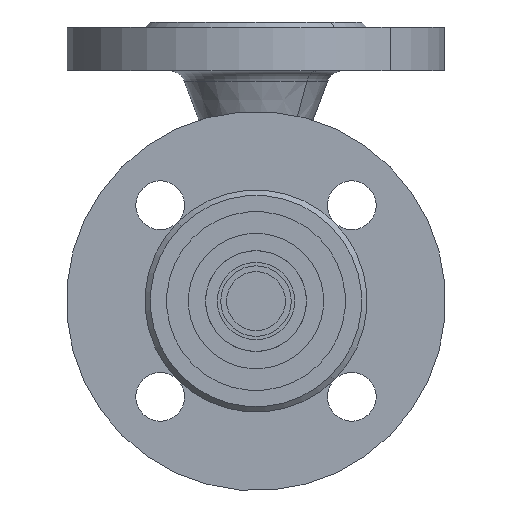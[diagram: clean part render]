
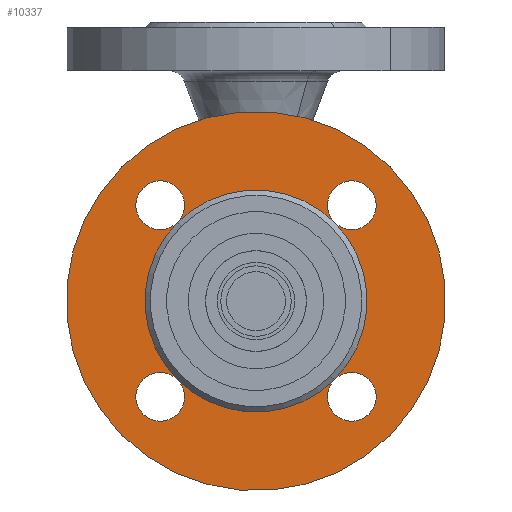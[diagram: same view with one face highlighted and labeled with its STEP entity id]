
A CAD part, front view. The second image highlights one B-rep face of the part: STEP entity #10337.
In plain terms, the highlighted planar face has unit normal (0, -1, 0).
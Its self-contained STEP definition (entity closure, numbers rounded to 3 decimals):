
#16402 = CARTESIAN_POINT ( 'NONE',  ( 70., 2., 0. ) ) ;
#16419 = EDGE_CURVE ( 'NONE', #13878, #747, #6027, .T. ) ;
#213 = VERTEX_POINT ( 'NONE', #7123 ) ;
#16617 = ORIENTED_EDGE ( 'NONE', *, *, #6523, .F. ) ;
#16683 = CARTESIAN_POINT ( 'NONE',  ( -70., 2., 0. ) ) ;
#433 = VERTEX_POINT ( 'NONE', #7382 ) ;
#499 = ORIENTED_EDGE ( 'NONE', *, *, #14106, .T. ) ;
#651 = EDGE_CURVE ( 'NONE', #433, #213, #7811, .T. ) ;
#747 = VERTEX_POINT ( 'NONE', #7903 ) ;
#17150 = EDGE_CURVE ( 'NONE', #9882, #18017, #6584, .T. ) ;
#963 = VERTEX_POINT ( 'NONE', #8064 ) ;
#1188 = EDGE_CURVE ( 'NONE', #963, #747, #8182, .T. ) ;
#17643 = ORIENTED_EDGE ( 'NONE', *, *, #16187, .T. ) ;
#17977 = ORIENTED_EDGE ( 'NONE', *, *, #16419, .T. ) ;
#18017 = VERTEX_POINT ( 'NONE', #13881 ) ;
#18235 = EDGE_CURVE ( 'NONE', #18017, #13878, #14221, .T. ) ;
#18486 = EDGE_CURVE ( 'NONE', #13654, #13878, #14626, .T. ) ;
#18832 = EDGE_CURVE ( 'NONE', #747, #9882, #15114, .T. ) ;
#18851 = ORIENTED_EDGE ( 'NONE', *, *, #18486, .T. ) ;
#2522 = VERTEX_POINT ( 'NONE', #9537 ) ;
#5891 = CIRCLE ( 'NONE', #5892, 70. ) ;
#5892 = AXIS2_PLACEMENT_3D ( 'NONE', #5893, #5894, #5895 ) ;
#5893 = CARTESIAN_POINT ( 'NONE',  ( 0., 2., 0. ) ) ;
#5894 = DIRECTION ( 'NONE',  ( 0., 1., 0. ) ) ;
#5895 = DIRECTION ( 'NONE',  ( -1., 0., 0. ) ) ;
#5915 = CIRCLE ( 'NONE', #5916, 9. ) ;
#5916 = AXIS2_PLACEMENT_3D ( 'NONE', #5917, #5918, #5919 ) ;
#5917 = CARTESIAN_POINT ( 'NONE',  ( 0., 2., 50. ) ) ;
#5918 = DIRECTION ( 'NONE',  ( 0., 1., 0. ) ) ;
#5919 = DIRECTION ( 'NONE',  ( -1., 0., 0. ) ) ;
#6027 = CIRCLE ( 'NONE', #6028, 41. ) ;
#6028 = AXIS2_PLACEMENT_3D ( 'NONE', #6029, #6030, #6031 ) ;
#6029 = CARTESIAN_POINT ( 'NONE',  ( 0., 2., 0. ) ) ;
#6030 = DIRECTION ( 'NONE',  ( 0., 1., 0. ) ) ;
#6031 = DIRECTION ( 'NONE',  ( -1., 0., 0. ) ) ;
#6086 = VERTEX_POINT ( 'NONE', #16402 ) ;
#6305 = VERTEX_POINT ( 'NONE', #16683 ) ;
#6523 = EDGE_CURVE ( 'NONE', #6305, #6086, #5891, .T. ) ;
#6584 = CIRCLE ( 'NONE', #6585, 41. ) ;
#6585 = AXIS2_PLACEMENT_3D ( 'NONE', #6586, #6587, #6588 ) ;
#6586 = CARTESIAN_POINT ( 'NONE',  ( 0., 2., 0. ) ) ;
#6587 = DIRECTION ( 'NONE',  ( 0., 1., 0. ) ) ;
#6588 = DIRECTION ( 'NONE',  ( -1., 0., 0. ) ) ;
#7123 = CARTESIAN_POINT ( 'NONE',  ( -9., 2., -50. ) ) ;
#7206 = CARTESIAN_POINT ( 'NONE',  ( 41., 2., 0. ) ) ;
#7382 = CARTESIAN_POINT ( 'NONE',  ( 9., 2., -50. ) ) ;
#7676 = CARTESIAN_POINT ( 'NONE',  ( 59., 2., 0. ) ) ;
#7811 = CIRCLE ( 'NONE', #7812, 9. ) ;
#7812 = AXIS2_PLACEMENT_3D ( 'NONE', #7813, #7814, #7815 ) ;
#7813 = CARTESIAN_POINT ( 'NONE',  ( 0., 2., -50. ) ) ;
#7814 = DIRECTION ( 'NONE',  ( 0., 1., 0. ) ) ;
#7815 = DIRECTION ( 'NONE',  ( -1., 0., 0. ) ) ;
#7903 = CARTESIAN_POINT ( 'NONE',  ( 0., 2., 41. ) ) ;
#7915 = CIRCLE ( 'NONE', #7916, 9. ) ;
#7916 = AXIS2_PLACEMENT_3D ( 'NONE', #7917, #7918, #7919 ) ;
#7917 = CARTESIAN_POINT ( 'NONE',  ( 50., 2., 0. ) ) ;
#7918 = DIRECTION ( 'NONE',  ( 0., 1., 0. ) ) ;
#7919 = DIRECTION ( 'NONE',  ( -1., 0., 0. ) ) ;
#7930 = FACE_OUTER_BOUND ( 'NONE', #10095, .T. ) ;
#7931 = FACE_BOUND ( 'NONE', #15752, .T. ) ;
#7932 = PLANE ( 'NONE',  #7933 ) ;
#7933 = AXIS2_PLACEMENT_3D ( 'NONE', #7934, #7935, #7936 ) ;
#7934 = CARTESIAN_POINT ( 'NONE',  ( 41., 2., 0. ) ) ;
#7935 = DIRECTION ( 'NONE',  ( 0., 1., 0. ) ) ;
#7936 = DIRECTION ( 'NONE',  ( -1., 0., 0. ) ) ;
#8064 = CARTESIAN_POINT ( 'NONE',  ( 9., 2., 50. ) ) ;
#8182 = CIRCLE ( 'NONE', #8184, 9. ) ;
#8184 = AXIS2_PLACEMENT_3D ( 'NONE', #8185, #8186, #8187 ) ;
#8185 = CARTESIAN_POINT ( 'NONE',  ( 0., 2., 50. ) ) ;
#8186 = DIRECTION ( 'NONE',  ( 0., 1., 0. ) ) ;
#8187 = DIRECTION ( 'NONE',  ( -1., 0., 0. ) ) ;
#8231 = CIRCLE ( 'NONE', #8235, 9. ) ;
#8235 = AXIS2_PLACEMENT_3D ( 'NONE', #8236, #8237, #8238 ) ;
#8236 = CARTESIAN_POINT ( 'NONE',  ( 0., 2., 50. ) ) ;
#8237 = DIRECTION ( 'NONE',  ( 0., 1., 0. ) ) ;
#8238 = DIRECTION ( 'NONE',  ( -1., 0., 0. ) ) ;
#8527 = ORIENTED_EDGE ( 'NONE', *, *, #10317, .T. ) ;
#9018 = EDGE_CURVE ( 'NONE', #9882, #10094, #14305, .T. ) ;
#9197 = CIRCLE ( 'NONE', #9198, 70. ) ;
#9198 = AXIS2_PLACEMENT_3D ( 'NONE', #9199, #9200, #9201 ) ;
#9199 = CARTESIAN_POINT ( 'NONE',  ( 0., 2., 0. ) ) ;
#9200 = DIRECTION ( 'NONE',  ( 0., 1., 0. ) ) ;
#9201 = DIRECTION ( 'NONE',  ( -1., 0., 0. ) ) ;
#9379 = ORIENTED_EDGE ( 'NONE', *, *, #9018, .T. ) ;
#9537 = CARTESIAN_POINT ( 'NONE',  ( -9., 2., 50. ) ) ;
#9882 = VERTEX_POINT ( 'NONE', #7206 ) ;
#9883 = ORIENTED_EDGE ( 'NONE', *, *, #18832, .T. ) ;
#10094 = VERTEX_POINT ( 'NONE', #7676 ) ;
#10095 = EDGE_LOOP ( 'NONE', ( #16617, #15987 ) ) ;
#10317 = EDGE_CURVE ( 'NONE', #10094, #9882, #7915, .T. ) ;
#10337 = ADVANCED_FACE ( 'NONE', ( #7930, #7931 ), #7932, .F. ) ;
#10391 = ORIENTED_EDGE ( 'NONE', *, *, #1188, .T. ) ;
#10895 = EDGE_CURVE ( 'NONE', #2522, #963, #8231, .T. ) ;
#11260 = ORIENTED_EDGE ( 'NONE', *, *, #10895, .T. ) ;
#11696 = EDGE_CURVE ( 'NONE', #6086, #6305, #9197, .T. ) ;
#12469 = ORIENTED_EDGE ( 'NONE', *, *, #18235, .T. ) ;
#12984 = EDGE_CURVE ( 'NONE', #213, #18017, #13443, .T. ) ;
#13342 = ORIENTED_EDGE ( 'NONE', *, *, #12984, .T. ) ;
#13443 = CIRCLE ( 'NONE', #13444, 9. ) ;
#13444 = AXIS2_PLACEMENT_3D ( 'NONE', #13445, #13446, #13447 ) ;
#13445 = CARTESIAN_POINT ( 'NONE',  ( 0., 2., -50. ) ) ;
#13446 = DIRECTION ( 'NONE',  ( 0., 1., 0. ) ) ;
#13447 = DIRECTION ( 'NONE',  ( -1., 0., 0. ) ) ;
#13654 = VERTEX_POINT ( 'NONE', #14294 ) ;
#13857 = ORIENTED_EDGE ( 'NONE', *, *, #651, .T. ) ;
#13878 = VERTEX_POINT ( 'NONE', #14686 ) ;
#13881 = CARTESIAN_POINT ( 'NONE',  ( 0., 2., -41. ) ) ;
#14106 = EDGE_CURVE ( 'NONE', #13878, #13654, #14930, .T. ) ;
#14221 = CIRCLE ( 'NONE', #14222, 41. ) ;
#14222 = AXIS2_PLACEMENT_3D ( 'NONE', #14223, #14224, #14225 ) ;
#14223 = CARTESIAN_POINT ( 'NONE',  ( 0., 2., 0. ) ) ;
#14224 = DIRECTION ( 'NONE',  ( 0., 1., 0. ) ) ;
#14225 = DIRECTION ( 'NONE',  ( -1., 0., 0. ) ) ;
#14294 = CARTESIAN_POINT ( 'NONE',  ( -59., 2., 0. ) ) ;
#14305 = CIRCLE ( 'NONE', #14306, 9. ) ;
#14306 = AXIS2_PLACEMENT_3D ( 'NONE', #14307, #14308, #14309 ) ;
#14307 = CARTESIAN_POINT ( 'NONE',  ( 50., 2., 0. ) ) ;
#14308 = DIRECTION ( 'NONE',  ( 0., 1., 0. ) ) ;
#14309 = DIRECTION ( 'NONE',  ( -1., 0., 0. ) ) ;
#14377 = EDGE_CURVE ( 'NONE', #18017, #433, #15175, .T. ) ;
#14626 = CIRCLE ( 'NONE', #14627, 9. ) ;
#14627 = AXIS2_PLACEMENT_3D ( 'NONE', #14628, #14629, #14630 ) ;
#14628 = CARTESIAN_POINT ( 'NONE',  ( -50., 2., 0. ) ) ;
#14629 = DIRECTION ( 'NONE',  ( 0., 1., 0. ) ) ;
#14630 = DIRECTION ( 'NONE',  ( -1., 0., 0. ) ) ;
#14686 = CARTESIAN_POINT ( 'NONE',  ( -41., 2., 0. ) ) ;
#14744 = ORIENTED_EDGE ( 'NONE', *, *, #14377, .T. ) ;
#14930 = CIRCLE ( 'NONE', #14931, 9. ) ;
#14931 = AXIS2_PLACEMENT_3D ( 'NONE', #14932, #14933, #14934 ) ;
#14932 = CARTESIAN_POINT ( 'NONE',  ( -50., 2., 0. ) ) ;
#14933 = DIRECTION ( 'NONE',  ( 0., 1., 0. ) ) ;
#14934 = DIRECTION ( 'NONE',  ( -1., 0., 0. ) ) ;
#15114 = CIRCLE ( 'NONE', #15115, 41. ) ;
#15115 = AXIS2_PLACEMENT_3D ( 'NONE', #15116, #15117, #15118 ) ;
#15116 = CARTESIAN_POINT ( 'NONE',  ( 0., 2., 0. ) ) ;
#15117 = DIRECTION ( 'NONE',  ( 0., 1., 0. ) ) ;
#15118 = DIRECTION ( 'NONE',  ( -1., 0., 0. ) ) ;
#15175 = CIRCLE ( 'NONE', #15176, 9. ) ;
#15176 = AXIS2_PLACEMENT_3D ( 'NONE', #15177, #15178, #15181 ) ;
#15177 = CARTESIAN_POINT ( 'NONE',  ( 0., 2., -50. ) ) ;
#15178 = DIRECTION ( 'NONE',  ( 0., 1., 0. ) ) ;
#15181 = DIRECTION ( 'NONE',  ( -1., 0., 0. ) ) ;
#15252 = ORIENTED_EDGE ( 'NONE', *, *, #17150, .T. ) ;
#15752 = EDGE_LOOP ( 'NONE', ( #15252, #14744, #13857, #13342, #12469, #499, #18851, #17977, #17643, #11260, #10391, #9883, #9379, #8527 ) ) ;
#15987 = ORIENTED_EDGE ( 'NONE', *, *, #11696, .F. ) ;
#16187 = EDGE_CURVE ( 'NONE', #747, #2522, #5915, .T. ) ;
